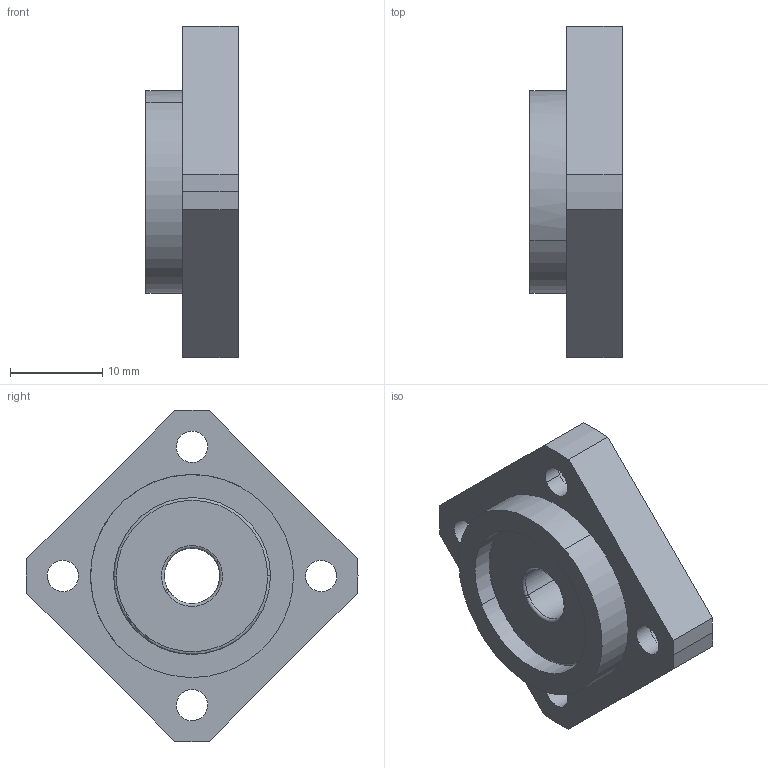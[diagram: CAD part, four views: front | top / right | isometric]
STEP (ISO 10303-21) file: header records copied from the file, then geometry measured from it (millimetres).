
FILE_DESCRIPTION(('CATIA V5 STEP Exchange'),'2;1');
FILE_NAME('D:\서포트 완성도면\FF\FF6.stp','2014-02-03T10:16:57+00:00',('none'),('none'),'CATIA Version 5 Release 18 GA (IN-10)','CATIA V5 STEP AP203','none');
FILE_SCHEMA(('CONFIG_CONTROL_DESIGN'));
Length unit declared in the file: millimetre
Products named in the file (1): FF6
Assembly tree (2 placements, depth 2):
  FF6
    #56
    #1628
Bounding box: 10 x 36 x 36 mm (x, y, z)
Volume: 4460.1 mm3; surface area: 3684 mm2
Topology: 2 solids, 2 shells, 55 faces, 130 edges, 84 vertices
Faces by surface type: cylinder 30, plane 13, torus 12
Entity records: 2215 total; most frequent: CARTESIAN_POINT 969, ORIENTED_EDGE 260, DIRECTION 183, EDGE_CURVE 130, AXIS2_PLACEMENT_3D 89, VERTEX_POINT 84, EDGE_LOOP 72, ADVANCED_FACE 55
